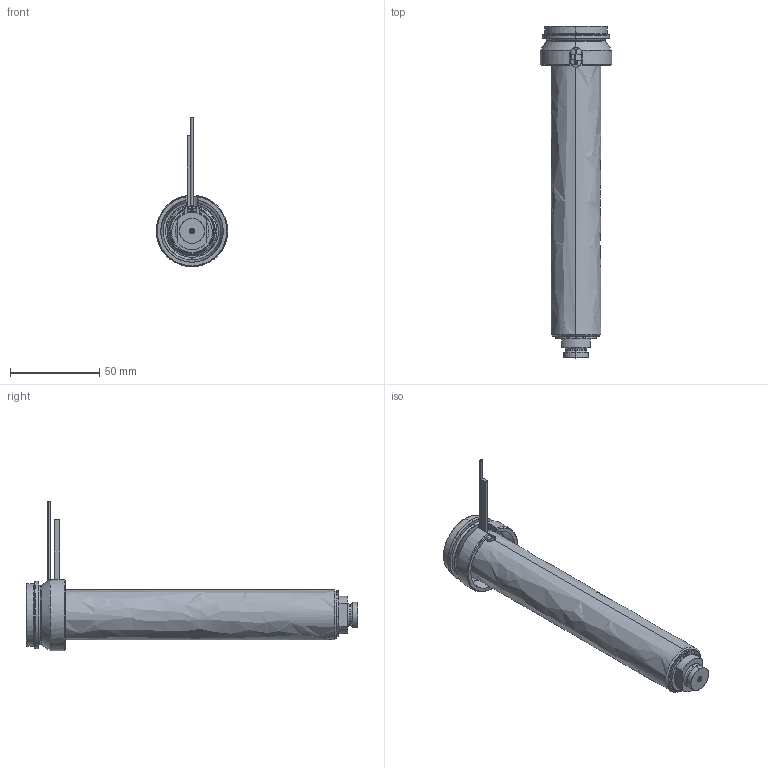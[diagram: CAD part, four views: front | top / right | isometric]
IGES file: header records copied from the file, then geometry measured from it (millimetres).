
Start section: SolidWorks IGES file using analytic representation for surfaces
Global section: file name: C:\Documents and Settings\ws-20\Desktop\TEM\UGEP4104-S-A-0 [Øf-1.31 P-0 ØC-09].IGS; native system: SolidWorks 2012; preprocessor: SolidWorks 2012; author: ws-20; date: 120426.085217; units: millimetre
Bounding box: 40 x 186 x 83.65 mm (x, y, z)
Surface area: 54797.7 mm2 (no closed solid volume)
Topology: 0 solids, 0 shells, 114 faces, 1882 edges, 1882 vertices
Faces by surface type: revolution 70, bspline 44
